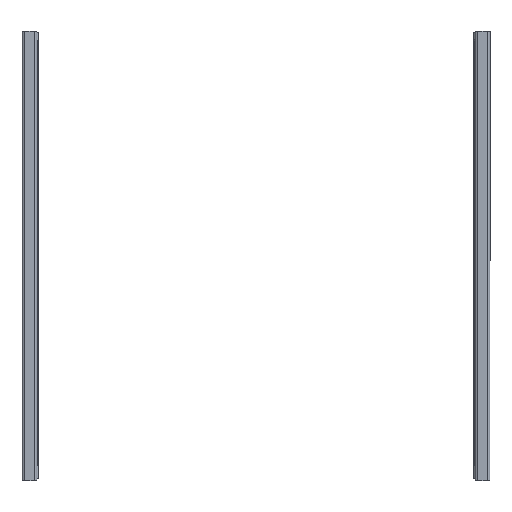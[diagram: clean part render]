
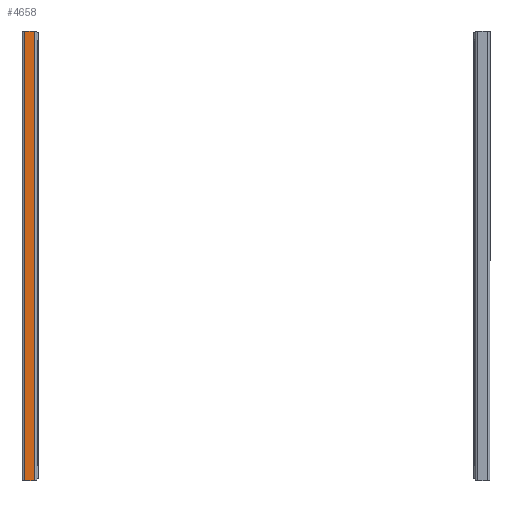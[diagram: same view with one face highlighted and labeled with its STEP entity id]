
A CAD part, front view. The second image highlights one B-rep face of the part: STEP entity #4658.
In plain terms, the highlighted planar face has unit normal (0, -1, 0).
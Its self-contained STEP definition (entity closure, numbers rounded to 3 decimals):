
#564=LINE('',#7034,#974);
#680=LINE('',#7357,#1090);
#681=LINE('',#7360,#1091);
#682=LINE('',#7361,#1092);
#974=VECTOR('',#5613,7.6);
#1090=VECTOR('',#5981,350.);
#1091=VECTOR('',#5984,7.6);
#1092=VECTOR('',#5985,350.);
#1330=PLANE('',#5023);
#1502=FACE_OUTER_BOUND('',#1773,.T.);
#1773=EDGE_LOOP('',(#3931,#3932,#3933,#3934));
#2308=VERTEX_POINT('',#7031);
#2309=VERTEX_POINT('',#7033);
#2390=VERTEX_POINT('',#7355);
#2391=VERTEX_POINT('',#7359);
#2782=EDGE_CURVE('',#2308,#2309,#564,.T.);
#2941=EDGE_CURVE('',#2390,#2308,#680,.T.);
#2942=EDGE_CURVE('',#2390,#2391,#681,.T.);
#2943=EDGE_CURVE('',#2309,#2391,#682,.T.);
#3931=ORIENTED_EDGE('',*,*,#2941,.F.);
#3932=ORIENTED_EDGE('',*,*,#2942,.T.);
#3933=ORIENTED_EDGE('',*,*,#2943,.F.);
#3934=ORIENTED_EDGE('',*,*,#2782,.F.);
#4658=ADVANCED_FACE('',(#1502),#1330,.T.);
#5023=AXIS2_PLACEMENT_3D('',#7358,#5982,#5983);
#5613=DIRECTION('',(-1.,0.,0.));
#5981=DIRECTION('',(0.,0.,-1.));
#5982=DIRECTION('center_axis',(0.,-1.,0.));
#5983=DIRECTION('ref_axis',(-1.,0.,0.));
#5984=DIRECTION('',(-1.,0.,0.));
#5985=DIRECTION('',(0.,0.,1.));
#7031=CARTESIAN_POINT('',(9.6,-22.25,-350.));
#7033=CARTESIAN_POINT('',(2.,-22.25,-350.));
#7034=CARTESIAN_POINT('',(11.6,-22.25,-350.));
#7355=CARTESIAN_POINT('',(9.6,-22.25,0.));
#7357=CARTESIAN_POINT('',(9.6,-22.25,0.));
#7358=CARTESIAN_POINT('Origin',(11.6,-22.25,0.));
#7359=CARTESIAN_POINT('',(2.,-22.25,0.));
#7360=CARTESIAN_POINT('',(11.6,-22.25,0.));
#7361=CARTESIAN_POINT('',(2.,-22.25,0.));
